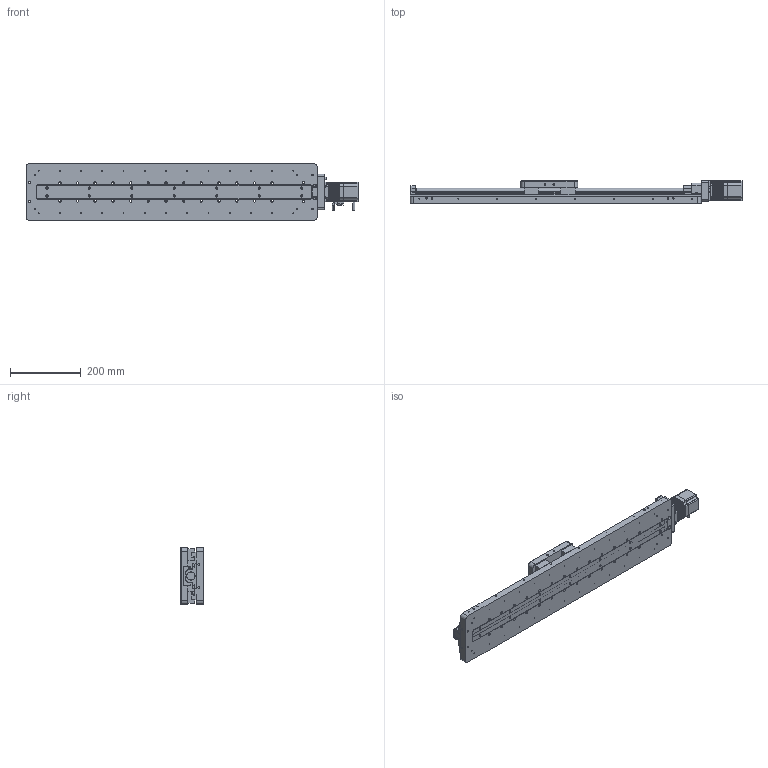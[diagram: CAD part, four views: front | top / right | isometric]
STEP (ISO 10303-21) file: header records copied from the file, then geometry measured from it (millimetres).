
FILE_DESCRIPTION (( 'STEP AP203' ), '1' );
FILE_NAME ('7STA09600Cµç¶¯Æ½ÒÆÌ¨.STEP', '2022-04-14T05:27:47', ( '' ), ( '' ), 'SwSTEP 2.0', 'SolidWorks 2018', '' );
FILE_SCHEMA (( 'CONFIG_CONTROL_DESIGN' ));
Products named in the file (1): 7STA09600C萇雄す痄怢
Bounding box: 938 x 64 x 160 mm (x, y, z)
Surface area: 606474.6 mm2 (no closed solid volume)
Topology: 0 solids, 556 shells, 2426 faces, 8615 edges, 6690 vertices
Faces by surface type: cylinder 1290, plane 951, torus 95, cone 52, sphere 28, bspline 10
Entity records: 93587 total; most frequent: CARTESIAN_POINT 19432, DIRECTION 16612, ORIENTED_EDGE 11811, EDGE_CURVE 8547, VERTEX_POINT 6658, AXIS2_PLACEMENT_3D 5870, VECTOR 4872, LINE 4872
